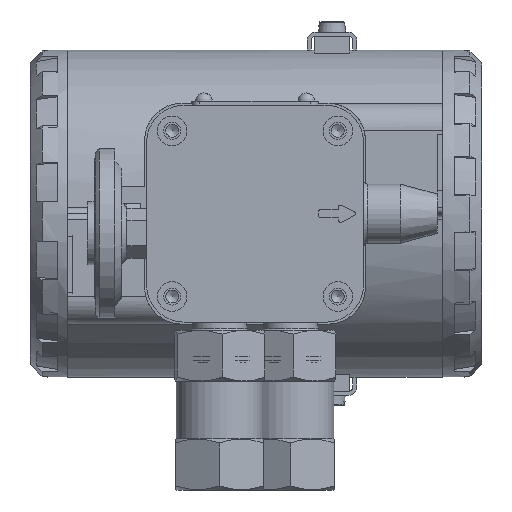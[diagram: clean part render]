
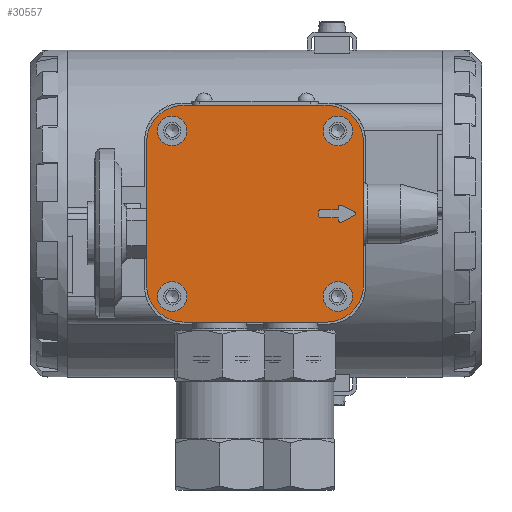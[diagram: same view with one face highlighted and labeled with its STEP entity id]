
A CAD part, left-side view. The second image highlights one B-rep face of the part: STEP entity #30557.
In plain terms, the highlighted planar face has unit normal (-1, 0, 0) as drawn and (0, 0, -1) by its records, which use the part's own axes.
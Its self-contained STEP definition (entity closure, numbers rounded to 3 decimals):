
#1793=FACE_BOUND('',#5647,.T.);
#1794=FACE_BOUND('',#5648,.T.);
#1795=FACE_BOUND('',#5649,.T.);
#1796=FACE_BOUND('',#5650,.T.);
#1797=FACE_BOUND('',#5651,.T.);
#2282=PLANE('',#34184);
#3689=FACE_OUTER_BOUND('',#5646,.T.);
#5646=EDGE_LOOP('',(#25850,#25851,#25852,#25853,#25854,#25855,#25856,#25857));
#5647=EDGE_LOOP('',(#25858,#25859,#25860,#25861,#25862,#25863,#25864,#25865,
#25866,#25867,#25868,#25869));
#5648=EDGE_LOOP('',(#25870));
#5649=EDGE_LOOP('',(#25871));
#5650=EDGE_LOOP('',(#25872));
#5651=EDGE_LOOP('',(#25873));
#7425=CIRCLE('',#34094,0.5);
#7427=CIRCLE('',#34098,0.5);
#7429=CIRCLE('',#34103,0.5);
#7431=CIRCLE('',#34107,0.5);
#7433=CIRCLE('',#34111,0.5);
#7434=CIRCLE('',#34115,3.75);
#7437=CIRCLE('',#34120,3.75);
#7440=CIRCLE('',#34125,3.75);
#7443=CIRCLE('',#34130,3.75);
#7467=CIRCLE('',#34171,9.5);
#7469=CIRCLE('',#34174,9.5);
#7471=CIRCLE('',#34178,9.5);
#7473=CIRCLE('',#34182,9.5);
#9144=LINE('',#53797,#11138);
#9148=LINE('',#53809,#11142);
#9152=LINE('',#53821,#11146);
#9155=LINE('',#53827,#11149);
#9159=LINE('',#53839,#11153);
#9163=LINE('',#53851,#11157);
#9167=LINE('',#53861,#11161);
#9181=LINE('',#53998,#11175);
#9190=LINE('',#54032,#11184);
#9194=LINE('',#54044,#11188);
#9197=LINE('',#54053,#11191);
#11138=VECTOR('',#40523,10.);
#11142=VECTOR('',#40535,10.);
#11146=VECTOR('',#40547,10.);
#11149=VECTOR('',#40552,10.);
#11153=VECTOR('',#40564,10.);
#11157=VECTOR('',#40576,10.);
#11161=VECTOR('',#40588,10.);
#11175=VECTOR('',#40698,10.);
#11184=VECTOR('',#40737,10.);
#11188=VECTOR('',#40749,10.);
#11191=VECTOR('',#40760,10.);
#14561=VERTEX_POINT('',#53794);
#14562=VERTEX_POINT('',#53796);
#14564=VERTEX_POINT('',#53802);
#14566=VERTEX_POINT('',#53808);
#14568=VERTEX_POINT('',#53814);
#14570=VERTEX_POINT('',#53820);
#14572=VERTEX_POINT('',#53826);
#14574=VERTEX_POINT('',#53832);
#14576=VERTEX_POINT('',#53838);
#14578=VERTEX_POINT('',#53844);
#14580=VERTEX_POINT('',#53850);
#14582=VERTEX_POINT('',#53856);
#14583=VERTEX_POINT('',#53864);
#14586=VERTEX_POINT('',#53873);
#14589=VERTEX_POINT('',#53882);
#14592=VERTEX_POINT('',#53891);
#14616=VERTEX_POINT('',#53995);
#14617=VERTEX_POINT('',#53997);
#14623=VERTEX_POINT('',#54018);
#14625=VERTEX_POINT('',#54024);
#14627=VERTEX_POINT('',#54030);
#14629=VERTEX_POINT('',#54036);
#14631=VERTEX_POINT('',#54042);
#14633=VERTEX_POINT('',#54048);
#18468=EDGE_CURVE('',#14562,#14561,#9144,.T.);
#18471=EDGE_CURVE('',#14564,#14562,#7425,.T.);
#18474=EDGE_CURVE('',#14566,#14564,#9148,.T.);
#18477=EDGE_CURVE('',#14568,#14566,#7427,.T.);
#18480=EDGE_CURVE('',#14570,#14568,#9152,.T.);
#18483=EDGE_CURVE('',#14572,#14570,#9155,.T.);
#18486=EDGE_CURVE('',#14574,#14572,#7429,.T.);
#18489=EDGE_CURVE('',#14576,#14574,#9159,.T.);
#18492=EDGE_CURVE('',#14578,#14576,#7431,.T.);
#18495=EDGE_CURVE('',#14580,#14578,#9163,.T.);
#18498=EDGE_CURVE('',#14582,#14580,#7433,.T.);
#18501=EDGE_CURVE('',#14561,#14582,#9167,.T.);
#18502=EDGE_CURVE('',#14583,#14583,#7434,.T.);
#18506=EDGE_CURVE('',#14586,#14586,#7437,.T.);
#18510=EDGE_CURVE('',#14589,#14589,#7440,.T.);
#18514=EDGE_CURVE('',#14592,#14592,#7443,.T.);
#18547=EDGE_CURVE('',#14616,#14617,#9181,.T.);
#18557=EDGE_CURVE('',#14617,#14623,#7467,.T.);
#18561=EDGE_CURVE('',#14625,#14616,#7469,.T.);
#18564=EDGE_CURVE('',#14627,#14625,#9190,.T.);
#18567=EDGE_CURVE('',#14629,#14627,#7471,.T.);
#18570=EDGE_CURVE('',#14631,#14629,#9194,.T.);
#18573=EDGE_CURVE('',#14633,#14631,#7473,.T.);
#18575=EDGE_CURVE('',#14623,#14633,#9197,.T.);
#25850=ORIENTED_EDGE('',*,*,#18575,.F.);
#25851=ORIENTED_EDGE('',*,*,#18557,.F.);
#25852=ORIENTED_EDGE('',*,*,#18547,.F.);
#25853=ORIENTED_EDGE('',*,*,#18561,.F.);
#25854=ORIENTED_EDGE('',*,*,#18564,.F.);
#25855=ORIENTED_EDGE('',*,*,#18567,.F.);
#25856=ORIENTED_EDGE('',*,*,#18570,.F.);
#25857=ORIENTED_EDGE('',*,*,#18573,.F.);
#25858=ORIENTED_EDGE('',*,*,#18468,.T.);
#25859=ORIENTED_EDGE('',*,*,#18501,.T.);
#25860=ORIENTED_EDGE('',*,*,#18498,.T.);
#25861=ORIENTED_EDGE('',*,*,#18495,.T.);
#25862=ORIENTED_EDGE('',*,*,#18492,.T.);
#25863=ORIENTED_EDGE('',*,*,#18489,.T.);
#25864=ORIENTED_EDGE('',*,*,#18486,.T.);
#25865=ORIENTED_EDGE('',*,*,#18483,.T.);
#25866=ORIENTED_EDGE('',*,*,#18480,.T.);
#25867=ORIENTED_EDGE('',*,*,#18477,.T.);
#25868=ORIENTED_EDGE('',*,*,#18474,.T.);
#25869=ORIENTED_EDGE('',*,*,#18471,.T.);
#25870=ORIENTED_EDGE('',*,*,#18502,.T.);
#25871=ORIENTED_EDGE('',*,*,#18506,.T.);
#25872=ORIENTED_EDGE('',*,*,#18510,.T.);
#25873=ORIENTED_EDGE('',*,*,#18514,.T.);
#30557=ADVANCED_FACE('',(#3689,#1793,#1794,#1795,#1796,#1797),#2282,.F.);
#34094=AXIS2_PLACEMENT_3D('',#53803,#40529,#40530);
#34098=AXIS2_PLACEMENT_3D('',#53815,#40541,#40542);
#34103=AXIS2_PLACEMENT_3D('',#53833,#40558,#40559);
#34107=AXIS2_PLACEMENT_3D('',#53845,#40570,#40571);
#34111=AXIS2_PLACEMENT_3D('',#53857,#40582,#40583);
#34115=AXIS2_PLACEMENT_3D('',#53865,#40593,#40594);
#34120=AXIS2_PLACEMENT_3D('',#53874,#40604,#40605);
#34125=AXIS2_PLACEMENT_3D('',#53883,#40615,#40616);
#34130=AXIS2_PLACEMENT_3D('',#53892,#40626,#40627);
#34171=AXIS2_PLACEMENT_3D('',#54019,#40723,#40724);
#34174=AXIS2_PLACEMENT_3D('',#54026,#40731,#40732);
#34178=AXIS2_PLACEMENT_3D('',#54038,#40743,#40744);
#34182=AXIS2_PLACEMENT_3D('',#54050,#40755,#40756);
#34184=AXIS2_PLACEMENT_3D('',#54054,#40761,#40762);
#40523=DIRECTION('',(1.,0.,0.));
#40529=DIRECTION('center_axis',(0.,0.,1.));
#40530=DIRECTION('ref_axis',(0.,-1.,0.));
#40535=DIRECTION('',(0.,-1.,0.));
#40541=DIRECTION('center_axis',(0.,0.,1.));
#40542=DIRECTION('ref_axis',(-1.,0.,0.));
#40547=DIRECTION('',(-1.,0.,0.));
#40552=DIRECTION('',(0.,-1.,0.));
#40558=DIRECTION('center_axis',(0.,0.,1.));
#40559=DIRECTION('ref_axis',(-1.,0.,0.));
#40564=DIRECTION('',(-0.894,0.447,0.));
#40570=DIRECTION('center_axis',(0.,0.,1.));
#40571=DIRECTION('ref_axis',(0.447,0.894,0.));
#40576=DIRECTION('',(0.894,0.447,0.));
#40582=DIRECTION('center_axis',(0.,0.,1.));
#40583=DIRECTION('ref_axis',(0.447,-0.894,0.));
#40588=DIRECTION('',(0.,-1.,0.));
#40593=DIRECTION('center_axis',(0.,0.,1.));
#40594=DIRECTION('ref_axis',(1.,0.,0.));
#40604=DIRECTION('center_axis',(0.,0.,1.));
#40605=DIRECTION('ref_axis',(1.,0.,0.));
#40615=DIRECTION('center_axis',(0.,0.,1.));
#40616=DIRECTION('ref_axis',(1.,0.,0.));
#40626=DIRECTION('center_axis',(0.,0.,1.));
#40627=DIRECTION('ref_axis',(1.,0.,0.));
#40698=DIRECTION('',(0.,1.,0.));
#40723=DIRECTION('center_axis',(0.,0.,1.));
#40724=DIRECTION('ref_axis',(1.,0.,0.));
#40731=DIRECTION('center_axis',(0.,0.,1.));
#40732=DIRECTION('ref_axis',(0.,-1.,0.));
#40737=DIRECTION('',(1.,0.,0.));
#40743=DIRECTION('center_axis',(0.,0.,1.));
#40744=DIRECTION('ref_axis',(-1.,0.,0.));
#40749=DIRECTION('',(0.,-1.,0.));
#40755=DIRECTION('center_axis',(0.,0.,1.));
#40756=DIRECTION('ref_axis',(0.,1.,0.));
#40760=DIRECTION('',(-1.,0.,0.));
#40761=DIRECTION('center_axis',(0.,0.,1.));
#40762=DIRECTION('ref_axis',(1.,0.,0.));
#53794=CARTESIAN_POINT('',(21.109,-1.,0.));
#53796=CARTESIAN_POINT('',(16.609,-1.,0.));
#53797=CARTESIAN_POINT('',(10.554,-1.,0.));
#53802=CARTESIAN_POINT('',(16.109,-0.5,0.));
#53803=CARTESIAN_POINT('Origin',(16.609,-0.5,0.));
#53808=CARTESIAN_POINT('',(16.109,0.5,0.));
#53809=CARTESIAN_POINT('',(16.109,-0.25,0.));
#53814=CARTESIAN_POINT('',(16.609,1.,0.));
#53815=CARTESIAN_POINT('Origin',(16.609,0.5,0.));
#53820=CARTESIAN_POINT('',(21.109,1.,0.));
#53821=CARTESIAN_POINT('',(8.304,1.,0.));
#53826=CARTESIAN_POINT('',(21.109,1.691,0.));
#53827=CARTESIAN_POINT('',(21.109,0.5,0.));
#53832=CARTESIAN_POINT('',(21.833,2.138,0.));
#53833=CARTESIAN_POINT('Origin',(21.609,1.691,0.));
#53838=CARTESIAN_POINT('',(25.214,0.447,0.));
#53839=CARTESIAN_POINT('',(13.527,6.291,0.));
#53844=CARTESIAN_POINT('',(25.214,-0.447,0.));
#53845=CARTESIAN_POINT('Origin',(24.991,0.,0.));
#53850=CARTESIAN_POINT('',(21.833,-2.138,0.));
#53851=CARTESIAN_POINT('',(15.218,-5.445,0.));
#53856=CARTESIAN_POINT('',(21.109,-1.691,0.));
#53857=CARTESIAN_POINT('Origin',(21.609,-1.691,0.));
#53861=CARTESIAN_POINT('',(21.109,-0.845,0.));
#53864=CARTESIAN_POINT('',(-24.75,-21.,0.));
#53865=CARTESIAN_POINT('Origin',(-21.,-21.,0.));
#53873=CARTESIAN_POINT('',(-24.75,21.,0.));
#53874=CARTESIAN_POINT('Origin',(-21.,21.,0.));
#53882=CARTESIAN_POINT('',(17.25,21.,0.));
#53883=CARTESIAN_POINT('Origin',(21.,21.,0.));
#53891=CARTESIAN_POINT('',(17.25,-21.,0.));
#53892=CARTESIAN_POINT('Origin',(21.,-21.,0.));
#53995=CARTESIAN_POINT('',(27.5,-18.,0.));
#53997=CARTESIAN_POINT('',(27.5,18.,0.));
#53998=CARTESIAN_POINT('',(27.5,-18.,0.));
#54018=CARTESIAN_POINT('',(18.,27.5,0.));
#54019=CARTESIAN_POINT('Origin',(18.,18.,0.));
#54024=CARTESIAN_POINT('',(18.,-27.5,0.));
#54026=CARTESIAN_POINT('Origin',(18.,-18.,0.));
#54030=CARTESIAN_POINT('',(-18.,-27.5,0.));
#54032=CARTESIAN_POINT('',(-18.,-27.5,0.));
#54036=CARTESIAN_POINT('',(-27.5,-18.,0.));
#54038=CARTESIAN_POINT('Origin',(-18.,-18.,0.));
#54042=CARTESIAN_POINT('',(-27.5,18.,0.));
#54044=CARTESIAN_POINT('',(-27.5,18.,0.));
#54048=CARTESIAN_POINT('',(-18.,27.5,0.));
#54050=CARTESIAN_POINT('Origin',(-18.,18.,0.));
#54053=CARTESIAN_POINT('',(18.,27.5,0.));
#54054=CARTESIAN_POINT('Origin',(0.,0.,0.));
